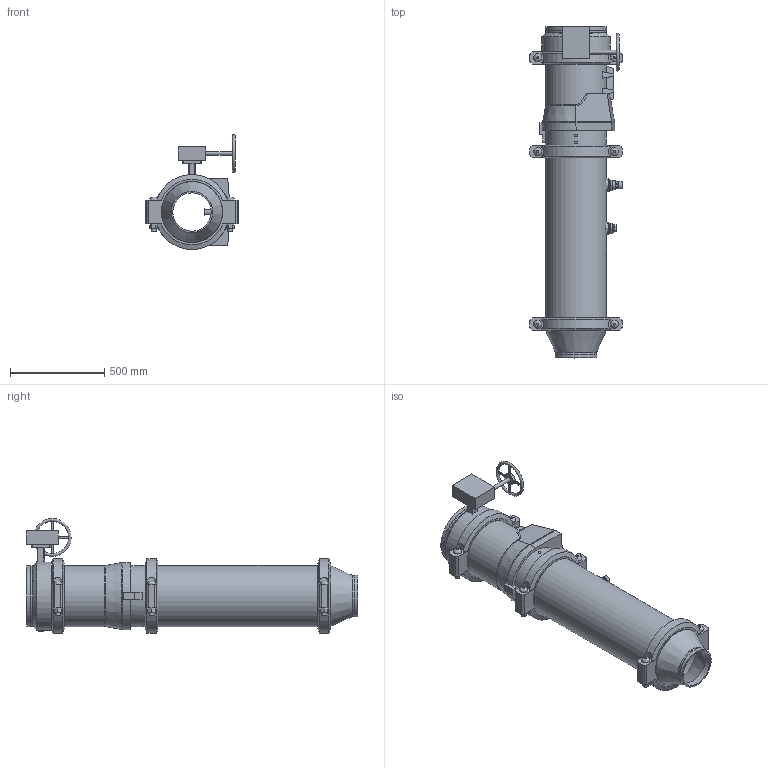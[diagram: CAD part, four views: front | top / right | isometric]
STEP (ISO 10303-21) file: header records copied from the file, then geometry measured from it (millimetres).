
FILE_DESCRIPTION(/* description */ ('VIC DVI PUMP DROP VERT S/380G (OGS)','CAx-IF Rec.Pracs.---Representation and Presentation of Product Manufacturing Information (PMI)---4.0---2014-10-13'),/* implementation_level */ '2;1');
FILE_NAME(/* name */ 'C:\Users\Public\Documents\Victaulic.Temp\A958\Victaulic_IPS_Vertical DVI_Series 380G (OGSxOGS)_12.0x08.0 (300x200).stp',/* time_stamp */ '2022-07-25T12:44:45+02:00',/* author */ ('Vjadhav'),/* organization */ ('Victaulic'),/* preprocessor_version */ 'ST-DEVELOPER v18',/* originating_system */ 'Autodesk Inventor 2020',/* authorisation */ '');
FILE_SCHEMA (('AP242_MANAGED_MODEL_BASED_3D_ENGINEERING_MIM_LF { 1 0 10303 442 1 1 4 }'));
Length unit declared in the file: inch
Products named in the file (8): 380G-12.0x08.0; 050-12.0x08.0; Pipe-12.0; 779-12.0; 923-10.0x0.75; 924-10.0x0.75; 761-12.0; 077-12.0
Assembly tree (9 placements, depth 2):
  380G-12.0x08.0
    050-12.0x08.0
    Pipe-12.0
    779-12.0
    923-10.0x0.75
    924-10.0x0.75
    761-12.0
    077-12.0  x3
Bounding box: 488.95 x 1760.22 x 609.46 mm (x, y, z)
Volume: 36515985.3 mm3; surface area: 4900985.9 mm2
Topology: 9 solids, 16 shells, 475 faces, 1189 edges, 810 vertices
Faces by surface type: plane 291, cylinder 149, cone 20, bspline 8, torus 7
Full cylindrical faces by diameter (mm): 10.922 x4, 13.716 x4, 20.066 x1, 21.336 x1, 22.86 x1, 25.4 x12, 26.67 x2, 27.432 x6, 31.75 x1, 38.608 x1, 45.974 x4, 55.626 x2, 63.079 x1, 70.104 x1, 76.2 x1, 202.717 x1, 214.401 x1, 219.075 x2, 303.225 x2, 304.8 x2, 314.96 x3, 318.287 x7, 323.85 x19, 361.95 x1
Entity records: 12059 total; most frequent: CARTESIAN_POINT 2440, DIRECTION 1959, ORIENTED_EDGE 1798, EDGE_CURVE 899, AXIS2_PLACEMENT_3D 747, VERTEX_POINT 614, LINE 465, VECTOR 465
